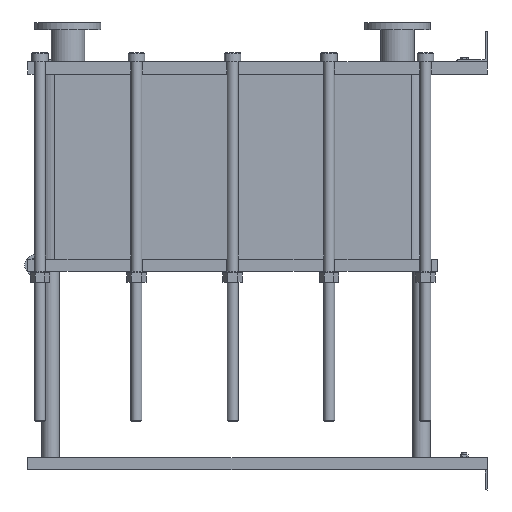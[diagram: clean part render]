
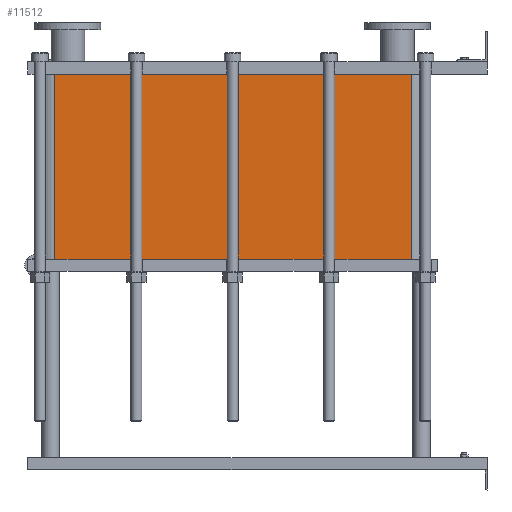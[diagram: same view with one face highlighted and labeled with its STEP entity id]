
A CAD part, left-side view. The second image highlights one B-rep face of the part: STEP entity #11512.
In plain terms, the highlighted planar face has unit normal (-1, 0, 0).
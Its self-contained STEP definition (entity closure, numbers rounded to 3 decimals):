
#1129=LINE('',#23232,#2102);
#1130=LINE('',#23236,#2103);
#1131=LINE('',#23238,#2104);
#1132=LINE('',#23239,#2105);
#2102=VECTOR('',#15887,10.);
#2103=VECTOR('',#15892,10.);
#2104=VECTOR('',#15893,10.);
#2105=VECTOR('',#15894,10.);
#3267=FACE_OUTER_BOUND('',#4093,.T.);
#4093=EDGE_LOOP('',(#10103,#10104,#10105,#10106));
#5642=VERTEX_POINT('',#23229);
#5643=VERTEX_POINT('',#23231);
#5644=VERTEX_POINT('',#23235);
#5645=VERTEX_POINT('',#23237);
#7159=EDGE_CURVE('',#5643,#5642,#1129,.T.);
#7161=EDGE_CURVE('',#5642,#5644,#1130,.T.);
#7162=EDGE_CURVE('',#5645,#5644,#1131,.T.);
#7163=EDGE_CURVE('',#5645,#5643,#1132,.T.);
#10103=ORIENTED_EDGE('',*,*,#7161,.T.);
#10104=ORIENTED_EDGE('',*,*,#7162,.F.);
#10105=ORIENTED_EDGE('',*,*,#7163,.T.);
#10106=ORIENTED_EDGE('',*,*,#7159,.T.);
#10857=PLANE('',#12751);
#11512=ADVANCED_FACE('',(#3267),#10857,.T.);
#12751=AXIS2_PLACEMENT_3D('',#23234,#15890,#15891);
#15887=DIRECTION('',(0.,0.,-1.));
#15890=DIRECTION('center_axis',(-1.,0.,0.));
#15891=DIRECTION('ref_axis',(0.,1.,0.));
#15892=DIRECTION('',(0.,-1.,0.));
#15893=DIRECTION('',(0.,0.,-1.));
#15894=DIRECTION('',(0.,1.,0.));
#23229=CARTESIAN_POINT('',(-200.,1414.,-603.75));
#23231=CARTESIAN_POINT('',(-200.,1414.,0.));
#23232=CARTESIAN_POINT('',(-200.,1414.,0.));
#23234=CARTESIAN_POINT('Origin',(-200.,248.,0.));
#23235=CARTESIAN_POINT('',(-200.,248.,-603.75));
#23236=CARTESIAN_POINT('',(-200.,539.5,-603.75));
#23237=CARTESIAN_POINT('',(-200.,248.,0.));
#23238=CARTESIAN_POINT('',(-200.,248.,0.));
#23239=CARTESIAN_POINT('',(-200.,248.,0.));
